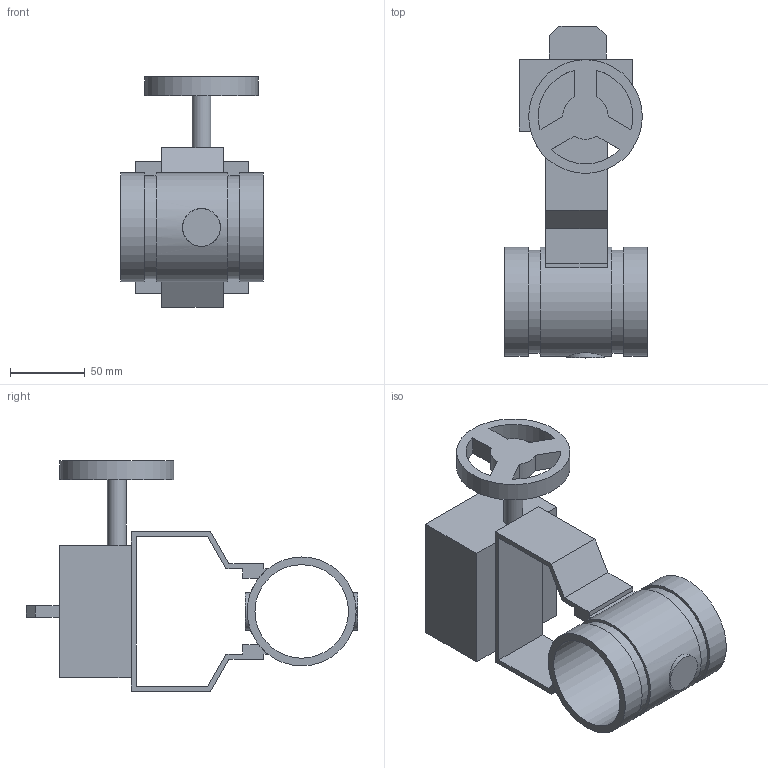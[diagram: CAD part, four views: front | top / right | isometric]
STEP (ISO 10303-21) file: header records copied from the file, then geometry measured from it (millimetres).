
FILE_DESCRIPTION(/* description */ ('VIC FIRELOCK BUTTERFLY VALVE SERIES 707 W/ WEATHERPROOF ACTUATOR FOR 300 PSI','CAx-IF Rec.Pracs.---Representation and Presentation of Product Manufacturing Information (PMI)---4.0---2014-10-13'),/* implementation_level */ '2;1');
FILE_NAME(/* name */ 'C:\Users\Vjadhav\AppData\Roaming\Autodesk\ApplicationPlugins\Back Up\Victaulic_FP-FireLock_Valve Butterfly_Series 707 (OGS)-Closed\Victaulic_FP-FireLock_Valve Butterfly_Series 707 (OGS)-Closed_2.5 (65).stp',/* time_stamp */ '2020-07-22T11:31:22+05:00',/* author */ ('kkamble'),/* organization */ ('Victaulic'),/* preprocessor_version */ 'ST-DEVELOPER v17.2',/* originating_system */ 'Autodesk Inventor 2019',/* authorisation */ '');
FILE_SCHEMA (('AP242_MANAGED_MODEL_BASED_3D_ENGINEERING_MIM_LF { 1 0 10303 442 1 1 4 }'));
Length unit declared in the file: inch
Products named in the file (1): 707-02.5
Bounding box: 95.76 x 222.5 x 154.43 mm (x, y, z)
Volume: 525312 mm3; surface area: 110605.3 mm2
Topology: 1 solids, 1 shells, 71 faces, 194 edges, 133 vertices
Faces by surface type: plane 55, cylinder 16
Full cylindrical faces by diameter (mm): 12.624 x1, 25.4 x2, 62.713 x1, 69.088 x2, 73.025 x3, 76.2 x1
Entity records: 2591 total; most frequent: CARTESIAN_POINT 485, DIRECTION 407, ORIENTED_EDGE 388, EDGE_CURVE 194, LINE 141, VECTOR 141, VERTEX_POINT 133, AXIS2_PLACEMENT_3D 133
